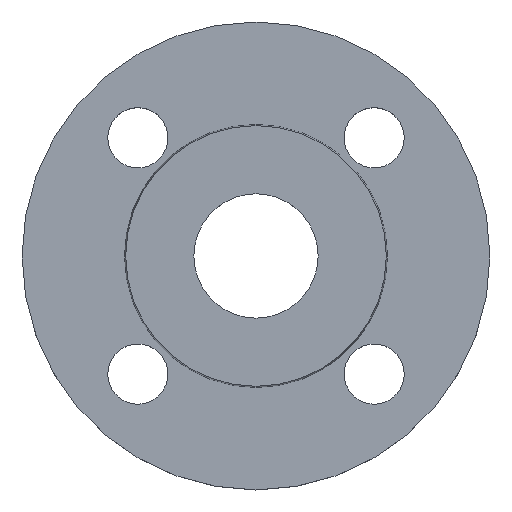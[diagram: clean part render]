
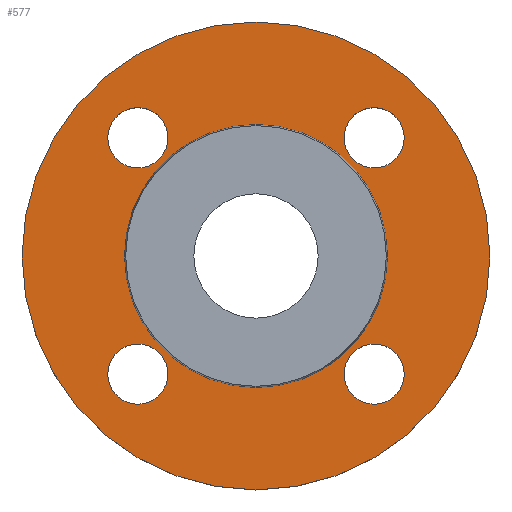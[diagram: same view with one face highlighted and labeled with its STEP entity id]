
A CAD part, top view. The second image highlights one B-rep face of the part: STEP entity #577.
In plain terms, the highlighted planar face has unit normal (0, 0, 1).
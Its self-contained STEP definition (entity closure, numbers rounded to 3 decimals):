
#1 = EDGE_LOOP ( 'NONE', ( #373, #578 ) ) ;
#6 = DIRECTION ( 'NONE',  ( 0., 0., -1. ) ) ;
#13 = CARTESIAN_POINT ( 'NONE',  ( -39.353, 0., -2. ) ) ;
#15 = CARTESIAN_POINT ( 'NONE',  ( -26.355, -35.355, -2. ) ) ;
#20 = CARTESIAN_POINT ( 'NONE',  ( 35.355, 35.355, -2. ) ) ;
#25 = CIRCLE ( 'NONE', #418, 39.353 ) ;
#29 = DIRECTION ( 'NONE',  ( -1., 0., 0. ) ) ;
#30 = CIRCLE ( 'NONE', #422, 70. ) ;
#32 = FACE_BOUND ( 'NONE', #446, .T. ) ;
#51 = VERTEX_POINT ( 'NONE', #15 ) ;
#54 = CIRCLE ( 'NONE', #434, 9. ) ;
#60 = CIRCLE ( 'NONE', #61, 9. ) ;
#61 = AXIS2_PLACEMENT_3D ( 'NONE', #78, #299, #492 ) ;
#63 = ORIENTED_EDGE ( 'NONE', *, *, #113, .T. ) ;
#64 = VERTEX_POINT ( 'NONE', #538 ) ;
#72 = EDGE_CURVE ( 'NONE', #64, #51, #388, .T. ) ;
#78 = CARTESIAN_POINT ( 'NONE',  ( 35.355, -35.355, -2. ) ) ;
#81 = ORIENTED_EDGE ( 'NONE', *, *, #394, .T. ) ;
#85 = FACE_BOUND ( 'NONE', #598, .T. ) ;
#86 = CIRCLE ( 'NONE', #106, 39.353 ) ;
#90 = CARTESIAN_POINT ( 'NONE',  ( 0., 0., -2. ) ) ;
#106 = AXIS2_PLACEMENT_3D ( 'NONE', #303, #497, #29 ) ;
#110 = VERTEX_POINT ( 'NONE', #389 ) ;
#113 = EDGE_CURVE ( 'NONE', #545, #377, #184, .T. ) ;
#117 = VERTEX_POINT ( 'NONE', #542 ) ;
#119 = CIRCLE ( 'NONE', #500, 9. ) ;
#123 = DIRECTION ( 'NONE',  ( 1., 0., 0. ) ) ;
#133 = DIRECTION ( 'NONE',  ( 0., 0., -1. ) ) ;
#142 = CIRCLE ( 'NONE', #524, 9. ) ;
#146 = DIRECTION ( 'NONE',  ( 0., 0., -1. ) ) ;
#150 = ORIENTED_EDGE ( 'NONE', *, *, #253, .T. ) ;
#156 = DIRECTION ( 'NONE',  ( 0., 0., -1. ) ) ;
#171 = VERTEX_POINT ( 'NONE', #596 ) ;
#173 = ORIENTED_EDGE ( 'NONE', *, *, #521, .F. ) ;
#175 = DIRECTION ( 'NONE',  ( 1., 0., 0. ) ) ;
#183 = EDGE_CURVE ( 'NONE', #622, #324, #25, .T. ) ;
#184 = CIRCLE ( 'NONE', #566, 9. ) ;
#187 = DIRECTION ( 'NONE',  ( 1., 0., 0. ) ) ;
#197 = DIRECTION ( 'NONE',  ( 0., 0., 1. ) ) ;
#198 = EDGE_LOOP ( 'NONE', ( #63, #650 ) ) ;
#203 = CIRCLE ( 'NONE', #218, 9. ) ;
#218 = AXIS2_PLACEMENT_3D ( 'NONE', #599, #146, #357 ) ;
#229 = DIRECTION ( 'NONE',  ( 1., 0., 0. ) ) ;
#243 = DIRECTION ( 'NONE',  ( 0., 0., -1. ) ) ;
#252 = EDGE_CURVE ( 'NONE', #371, #117, #626, .T. ) ;
#253 = EDGE_CURVE ( 'NONE', #51, #64, #54, .T. ) ;
#255 = FACE_OUTER_BOUND ( 'NONE', #452, .T. ) ;
#265 = CIRCLE ( 'NONE', #281, 70. ) ;
#278 = EDGE_CURVE ( 'NONE', #433, #110, #142, .T. ) ;
#279 = AXIS2_PLACEMENT_3D ( 'NONE', #648, #197, #401 ) ;
#281 = AXIS2_PLACEMENT_3D ( 'NONE', #609, #156, #367 ) ;
#297 = DIRECTION ( 'NONE',  ( 0., 0., -1. ) ) ;
#299 = DIRECTION ( 'NONE',  ( 0., 0., -1. ) ) ;
#303 = CARTESIAN_POINT ( 'NONE',  ( 0., 0., -2. ) ) ;
#307 = FACE_BOUND ( 'NONE', #198, .T. ) ;
#310 = DIRECTION ( 'NONE',  ( 0., 0., -1. ) ) ;
#324 = VERTEX_POINT ( 'NONE', #13 ) ;
#325 = ORIENTED_EDGE ( 'NONE', *, *, #72, .T. ) ;
#328 = VERTEX_POINT ( 'NONE', #583 ) ;
#341 = ORIENTED_EDGE ( 'NONE', *, *, #514, .F. ) ;
#344 = DIRECTION ( 'NONE',  ( 1., 0., 0. ) ) ;
#353 = AXIS2_PLACEMENT_3D ( 'NONE', #481, #6, #229 ) ;
#357 = DIRECTION ( 'NONE',  ( 1., 0., 0. ) ) ;
#367 = DIRECTION ( 'NONE',  ( -1., 0., 0. ) ) ;
#371 = VERTEX_POINT ( 'NONE', #541 ) ;
#373 = ORIENTED_EDGE ( 'NONE', *, *, #374, .T. ) ;
#374 = EDGE_CURVE ( 'NONE', #110, #433, #60, .T. ) ;
#377 = VERTEX_POINT ( 'NONE', #591 ) ;
#382 = CARTESIAN_POINT ( 'NONE',  ( 35.355, -35.355, -2. ) ) ;
#388 = CIRCLE ( 'NONE', #476, 9. ) ;
#389 = CARTESIAN_POINT ( 'NONE',  ( 44.355, -35.355, -2. ) ) ;
#394 = EDGE_CURVE ( 'NONE', #324, #622, #86, .T. ) ;
#401 = DIRECTION ( 'NONE',  ( 1., 0., 0. ) ) ;
#406 = CARTESIAN_POINT ( 'NONE',  ( 39.353, 0., -2. ) ) ;
#418 = AXIS2_PLACEMENT_3D ( 'NONE', #90, #310, #503 ) ;
#422 = AXIS2_PLACEMENT_3D ( 'NONE', #565, #297, #490 ) ;
#432 = EDGE_CURVE ( 'NONE', #377, #545, #203, .T. ) ;
#433 = VERTEX_POINT ( 'NONE', #556 ) ;
#434 = AXIS2_PLACEMENT_3D ( 'NONE', #435, #629, #175 ) ;
#435 = CARTESIAN_POINT ( 'NONE',  ( -35.355, -35.355, -2. ) ) ;
#443 = CARTESIAN_POINT ( 'NONE',  ( -35.355, -35.355, -2. ) ) ;
#444 = DIRECTION ( 'NONE',  ( 1., 0., 0. ) ) ;
#446 = EDGE_LOOP ( 'NONE', ( #81, #612 ) ) ;
#451 = CARTESIAN_POINT ( 'NONE',  ( -26.355, 35.355, -2. ) ) ;
#452 = EDGE_LOOP ( 'NONE', ( #173, #341 ) ) ;
#455 = PLANE ( 'NONE',  #279 ) ;
#456 = EDGE_LOOP ( 'NONE', ( #472, #478 ) ) ;
#472 = ORIENTED_EDGE ( 'NONE', *, *, #523, .T. ) ;
#476 = AXIS2_PLACEMENT_3D ( 'NONE', #443, #636, #187 ) ;
#478 = ORIENTED_EDGE ( 'NONE', *, *, #252, .T. ) ;
#481 = CARTESIAN_POINT ( 'NONE',  ( 35.355, 35.355, -2. ) ) ;
#490 = DIRECTION ( 'NONE',  ( -1., 0., 0. ) ) ;
#492 = DIRECTION ( 'NONE',  ( 1., 0., 0. ) ) ;
#497 = DIRECTION ( 'NONE',  ( 0., 0., -1. ) ) ;
#499 = FACE_BOUND ( 'NONE', #456, .T. ) ;
#500 = AXIS2_PLACEMENT_3D ( 'NONE', #20, #243, #444 ) ;
#503 = DIRECTION ( 'NONE',  ( -1., 0., 0. ) ) ;
#514 = EDGE_CURVE ( 'NONE', #171, #328, #265, .T. ) ;
#521 = EDGE_CURVE ( 'NONE', #328, #171, #30, .T. ) ;
#523 = EDGE_CURVE ( 'NONE', #117, #371, #119, .T. ) ;
#524 = AXIS2_PLACEMENT_3D ( 'NONE', #382, #581, #123 ) ;
#538 = CARTESIAN_POINT ( 'NONE',  ( -44.355, -35.355, -2. ) ) ;
#541 = CARTESIAN_POINT ( 'NONE',  ( 26.355, 35.355, -2. ) ) ;
#542 = CARTESIAN_POINT ( 'NONE',  ( 44.355, 35.355, -2. ) ) ;
#545 = VERTEX_POINT ( 'NONE', #451 ) ;
#548 = FACE_BOUND ( 'NONE', #1, .T. ) ;
#556 = CARTESIAN_POINT ( 'NONE',  ( 26.355, -35.355, -2. ) ) ;
#565 = CARTESIAN_POINT ( 'NONE',  ( 0., 0., -2. ) ) ;
#566 = AXIS2_PLACEMENT_3D ( 'NONE', #587, #133, #344 ) ;
#577 = ADVANCED_FACE ( 'NONE', ( #548, #85, #307, #499, #32, #255 ), #455, .T. ) ;
#578 = ORIENTED_EDGE ( 'NONE', *, *, #278, .T. ) ;
#581 = DIRECTION ( 'NONE',  ( 0., 0., -1. ) ) ;
#583 = CARTESIAN_POINT ( 'NONE',  ( 70., 0., -2. ) ) ;
#587 = CARTESIAN_POINT ( 'NONE',  ( -35.355, 35.355, -2. ) ) ;
#591 = CARTESIAN_POINT ( 'NONE',  ( -44.355, 35.355, -2. ) ) ;
#596 = CARTESIAN_POINT ( 'NONE',  ( -70., 0., -2. ) ) ;
#598 = EDGE_LOOP ( 'NONE', ( #150, #325 ) ) ;
#599 = CARTESIAN_POINT ( 'NONE',  ( -35.355, 35.355, -2. ) ) ;
#609 = CARTESIAN_POINT ( 'NONE',  ( 0., 0., -2. ) ) ;
#612 = ORIENTED_EDGE ( 'NONE', *, *, #183, .T. ) ;
#622 = VERTEX_POINT ( 'NONE', #406 ) ;
#626 = CIRCLE ( 'NONE', #353, 9. ) ;
#629 = DIRECTION ( 'NONE',  ( 0., 0., -1. ) ) ;
#636 = DIRECTION ( 'NONE',  ( 0., 0., -1. ) ) ;
#648 = CARTESIAN_POINT ( 'NONE',  ( 39.353, 0., -2. ) ) ;
#650 = ORIENTED_EDGE ( 'NONE', *, *, #432, .T. ) ;
